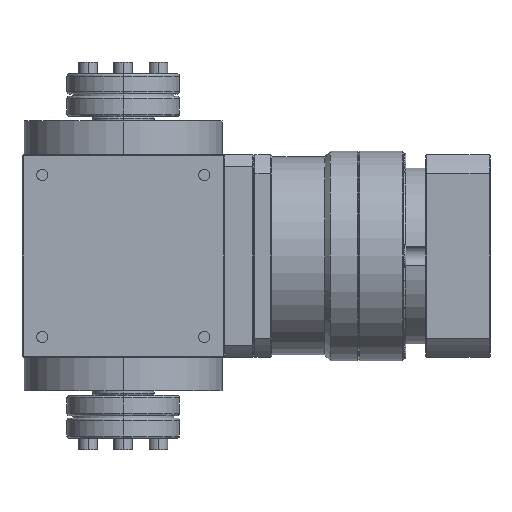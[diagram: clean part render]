
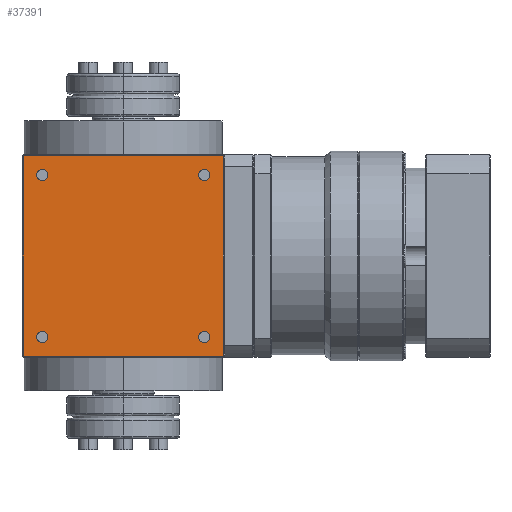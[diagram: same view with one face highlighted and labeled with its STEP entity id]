
A CAD part, left-side view. The second image highlights one B-rep face of the part: STEP entity #37391.
In plain terms, the highlighted planar face has unit normal (-1, 0, 0).
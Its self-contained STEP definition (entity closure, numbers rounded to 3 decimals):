
#1164 = EDGE_CURVE ( 'NONE', #34778, #32907, #17408, .T. ) ;
#1170 = CARTESIAN_POINT ( 'NONE',  ( -45., 36., -36. ) ) ;
#1256 = ORIENTED_EDGE ( 'NONE', *, *, #10538, .T. ) ;
#1480 = VECTOR ( 'NONE', #17393, 1000. ) ;
#2742 = DIRECTION ( 'NONE',  ( 0., 0., 1. ) ) ;
#3394 = DIRECTION ( 'NONE',  ( -1., 0., 0. ) ) ;
#3596 = DIRECTION ( 'NONE',  ( 0., 0., 1. ) ) ;
#3606 = CARTESIAN_POINT ( 'NONE',  ( -45., 44.5, -44.5 ) ) ;
#3809 = CARTESIAN_POINT ( 'NONE',  ( -45., -36., -36. ) ) ;
#4189 = VERTEX_POINT ( 'NONE', #36523 ) ;
#5320 = VERTEX_POINT ( 'NONE', #9865 ) ;
#5549 = DIRECTION ( 'NONE',  ( 1., 0., 0. ) ) ;
#5691 = ORIENTED_EDGE ( 'NONE', *, *, #1164, .T. ) ;
#5882 = FACE_BOUND ( 'NONE', #44170, .T. ) ;
#6319 = CARTESIAN_POINT ( 'NONE',  ( -45., 45., -45. ) ) ;
#6344 = CARTESIAN_POINT ( 'NONE',  ( -45., -44.5, 44.5 ) ) ;
#6758 = FACE_OUTER_BOUND ( 'NONE', #37503, .T. ) ;
#6974 = LINE ( 'NONE', #41236, #31592 ) ;
#6977 = ORIENTED_EDGE ( 'NONE', *, *, #22774, .T. ) ;
#7083 = CARTESIAN_POINT ( 'NONE',  ( -45., 45., -44.5 ) ) ;
#7474 = DIRECTION ( 'NONE',  ( 1., 0., 0. ) ) ;
#7798 = AXIS2_PLACEMENT_3D ( 'NONE', #32102, #7474, #8135 ) ;
#7858 = CARTESIAN_POINT ( 'NONE',  ( -45., -36., -36. ) ) ;
#8135 = DIRECTION ( 'NONE',  ( 0., 0., 1. ) ) ;
#8291 = CARTESIAN_POINT ( 'NONE',  ( -45., 36., -33.5 ) ) ;
#8352 = ORIENTED_EDGE ( 'NONE', *, *, #41269, .T. ) ;
#8558 = ORIENTED_EDGE ( 'NONE', *, *, #26298, .T. ) ;
#9071 = DIRECTION ( 'NONE',  ( 1., 0., 0. ) ) ;
#9536 = AXIS2_PLACEMENT_3D ( 'NONE', #1170, #41710, #37910 ) ;
#9684 = PLANE ( 'NONE',  #37679 ) ;
#9865 = CARTESIAN_POINT ( 'NONE',  ( -45., 36., 33.5 ) ) ;
#9877 = AXIS2_PLACEMENT_3D ( 'NONE', #3809, #41868, #3596 ) ;
#9950 = CIRCLE ( 'NONE', #7798, 2.5 ) ;
#10242 = CARTESIAN_POINT ( 'NONE',  ( -45., 45., 44.5 ) ) ;
#10538 = EDGE_CURVE ( 'NONE', #4189, #44251, #9950, .T. ) ;
#10657 = LINE ( 'NONE', #7083, #1480 ) ;
#10777 = EDGE_LOOP ( 'NONE', ( #8558, #16373 ) ) ;
#11656 = DIRECTION ( 'NONE',  ( 0., 0., 1. ) ) ;
#11969 = VERTEX_POINT ( 'NONE', #6344 ) ;
#12606 = VERTEX_POINT ( 'NONE', #3606 ) ;
#14334 = CIRCLE ( 'NONE', #26481, 2.5 ) ;
#14525 = AXIS2_PLACEMENT_3D ( 'NONE', #21908, #14760, #28394 ) ;
#14760 = DIRECTION ( 'NONE',  ( 1., 0., 0. ) ) ;
#16373 = ORIENTED_EDGE ( 'NONE', *, *, #36427, .T. ) ;
#17393 = DIRECTION ( 'NONE',  ( 0., -1., 0. ) ) ;
#17408 = CIRCLE ( 'NONE', #9536, 2.5 ) ;
#18434 = EDGE_CURVE ( 'NONE', #28986, #5320, #18564, .T. ) ;
#18564 = CIRCLE ( 'NONE', #43586, 2.5 ) ;
#19020 = AXIS2_PLACEMENT_3D ( 'NONE', #7858, #29359, #11656 ) ;
#20020 = ORIENTED_EDGE ( 'NONE', *, *, #32362, .T. ) ;
#20428 = FACE_BOUND ( 'NONE', #22401, .T. ) ;
#20935 = LINE ( 'NONE', #38377, #39983 ) ;
#20988 = LINE ( 'NONE', #10242, #40488 ) ;
#21908 = CARTESIAN_POINT ( 'NONE',  ( -45., 36., 36. ) ) ;
#22401 = EDGE_LOOP ( 'NONE', ( #5691, #41092 ) ) ;
#22729 = CARTESIAN_POINT ( 'NONE',  ( -45., 36., 36. ) ) ;
#22774 = EDGE_CURVE ( 'NONE', #12606, #43852, #10657, .T. ) ;
#22962 = DIRECTION ( 'NONE',  ( 0., 0., 1. ) ) ;
#23454 = AXIS2_PLACEMENT_3D ( 'NONE', #30404, #5549, #36895 ) ;
#23642 = EDGE_CURVE ( 'NONE', #28149, #12606, #6974, .T. ) ;
#23656 = VERTEX_POINT ( 'NONE', #23780 ) ;
#23780 = CARTESIAN_POINT ( 'NONE',  ( -45., -36., -38.5 ) ) ;
#24553 = CARTESIAN_POINT ( 'NONE',  ( -45., 44.5, 44.5 ) ) ;
#26298 = EDGE_CURVE ( 'NONE', #28809, #23656, #44205, .T. ) ;
#26481 = AXIS2_PLACEMENT_3D ( 'NONE', #26763, #9071, #26556 ) ;
#26556 = DIRECTION ( 'NONE',  ( 0., 0., 1. ) ) ;
#26763 = CARTESIAN_POINT ( 'NONE',  ( -45., -36., 36. ) ) ;
#27888 = DIRECTION ( 'NONE',  ( 0., 0., 1. ) ) ;
#28149 = VERTEX_POINT ( 'NONE', #24553 ) ;
#28394 = DIRECTION ( 'NONE',  ( 0., 0., 1. ) ) ;
#28596 = EDGE_CURVE ( 'NONE', #43852, #11969, #20935, .T. ) ;
#28809 = VERTEX_POINT ( 'NONE', #36029 ) ;
#28986 = VERTEX_POINT ( 'NONE', #38433 ) ;
#29359 = DIRECTION ( 'NONE',  ( 1., 0., 0. ) ) ;
#30404 = CARTESIAN_POINT ( 'NONE',  ( -45., 36., -36. ) ) ;
#30442 = CARTESIAN_POINT ( 'NONE',  ( -45., -36., 33.5 ) ) ;
#31592 = VECTOR ( 'NONE', #37884, 1000. ) ;
#32102 = CARTESIAN_POINT ( 'NONE',  ( -45., -36., 36. ) ) ;
#32362 = EDGE_CURVE ( 'NONE', #5320, #28986, #41685, .T. ) ;
#32907 = VERTEX_POINT ( 'NONE', #42890 ) ;
#33061 = ORIENTED_EDGE ( 'NONE', *, *, #28596, .T. ) ;
#33768 = CARTESIAN_POINT ( 'NONE',  ( -45., -44.5, -44.5 ) ) ;
#34778 = VERTEX_POINT ( 'NONE', #8291 ) ;
#35491 = ORIENTED_EDGE ( 'NONE', *, *, #18434, .T. ) ;
#35884 = ORIENTED_EDGE ( 'NONE', *, *, #23642, .T. ) ;
#36029 = CARTESIAN_POINT ( 'NONE',  ( -45., -36., -33.5 ) ) ;
#36388 = DIRECTION ( 'NONE',  ( 1., 0., 0. ) ) ;
#36427 = EDGE_CURVE ( 'NONE', #23656, #28809, #38316, .T. ) ;
#36523 = CARTESIAN_POINT ( 'NONE',  ( -45., -36., 38.5 ) ) ;
#36895 = DIRECTION ( 'NONE',  ( 0., 0., 1. ) ) ;
#37391 = ADVANCED_FACE ( 'NONE', ( #6758, #43944, #5882, #40797, #20428 ), #9684, .T. ) ;
#37503 = EDGE_LOOP ( 'NONE', ( #33061, #41645, #35884, #6977 ) ) ;
#37679 = AXIS2_PLACEMENT_3D ( 'NONE', #6319, #3394, #2742 ) ;
#37739 = CIRCLE ( 'NONE', #23454, 2.5 ) ;
#37884 = DIRECTION ( 'NONE',  ( 0., 0., -1. ) ) ;
#37910 = DIRECTION ( 'NONE',  ( 0., 0., 1. ) ) ;
#38254 = EDGE_CURVE ( 'NONE', #32907, #34778, #37739, .T. ) ;
#38316 = CIRCLE ( 'NONE', #19020, 2.5 ) ;
#38377 = CARTESIAN_POINT ( 'NONE',  ( -45., -44.5, -45. ) ) ;
#38433 = CARTESIAN_POINT ( 'NONE',  ( -45., 36., 38.5 ) ) ;
#39983 = VECTOR ( 'NONE', #27888, 1000. ) ;
#40481 = DIRECTION ( 'NONE',  ( 0., 1., 0. ) ) ;
#40488 = VECTOR ( 'NONE', #40481, 1000. ) ;
#40797 = FACE_BOUND ( 'NONE', #10777, .T. ) ;
#41092 = ORIENTED_EDGE ( 'NONE', *, *, #38254, .T. ) ;
#41236 = CARTESIAN_POINT ( 'NONE',  ( -45., 44.5, -45. ) ) ;
#41269 = EDGE_CURVE ( 'NONE', #44251, #4189, #14334, .T. ) ;
#41645 = ORIENTED_EDGE ( 'NONE', *, *, #43803, .T. ) ;
#41685 = CIRCLE ( 'NONE', #14525, 2.5 ) ;
#41710 = DIRECTION ( 'NONE',  ( 1., 0., 0. ) ) ;
#41868 = DIRECTION ( 'NONE',  ( 1., 0., 0. ) ) ;
#42890 = CARTESIAN_POINT ( 'NONE',  ( -45., 36., -38.5 ) ) ;
#43586 = AXIS2_PLACEMENT_3D ( 'NONE', #22729, #36388, #22962 ) ;
#43752 = EDGE_LOOP ( 'NONE', ( #35491, #20020 ) ) ;
#43803 = EDGE_CURVE ( 'NONE', #11969, #28149, #20988, .T. ) ;
#43852 = VERTEX_POINT ( 'NONE', #33768 ) ;
#43944 = FACE_BOUND ( 'NONE', #43752, .T. ) ;
#44170 = EDGE_LOOP ( 'NONE', ( #1256, #8352 ) ) ;
#44205 = CIRCLE ( 'NONE', #9877, 2.5 ) ;
#44251 = VERTEX_POINT ( 'NONE', #30442 ) ;
